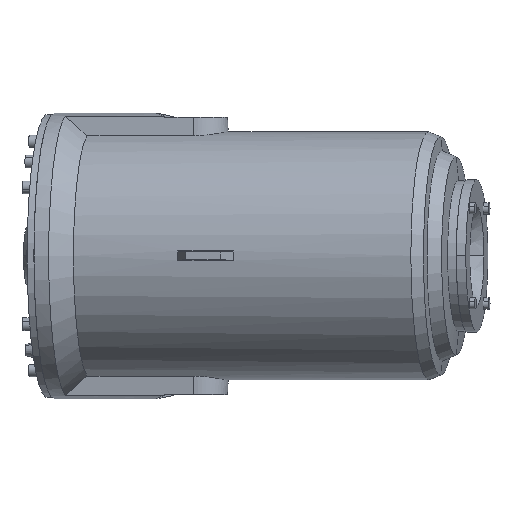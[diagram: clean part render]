
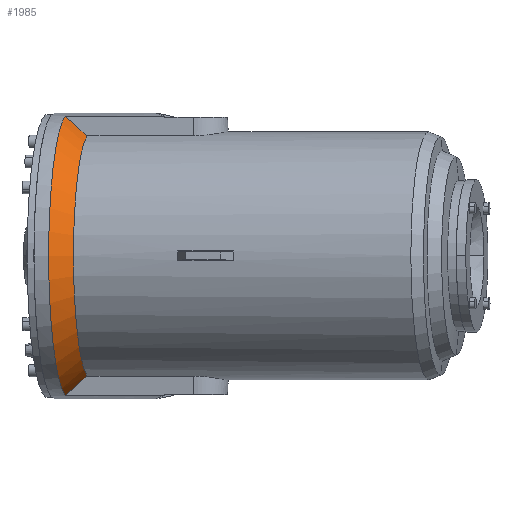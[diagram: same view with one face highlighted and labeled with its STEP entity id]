
A CAD part, top view. The second image highlights one B-rep face of the part: STEP entity #1985.
In plain terms, the highlighted conical face has half-angle 40 degrees and reference radius 206 mm.
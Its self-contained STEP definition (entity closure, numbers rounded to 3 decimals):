
#151 = DIRECTION ( 'NONE',  ( 0., 1., 0. ) ) ;
#152 = CARTESIAN_POINT ( 'NONE',  ( -538.036, -194., 650.441 ) ) ;
#154 = DIRECTION ( 'NONE',  ( 0.99, 0., 0.144 ) ) ;
#169 = DIRECTION ( 'NONE',  ( 0., 1., 0. ) ) ;
#171 = CARTESIAN_POINT ( 'NONE',  ( -506.195, -194., 655.086 ) ) ;
#175 = DIRECTION ( 'NONE',  ( 0.99, 0., 0.144 ) ) ;
#382 = CIRCLE ( 'NONE', #4192, 179. ) ;
#396 = CIRCLE ( 'NONE', #4197, 206. ) ;
#737 = FACE_OUTER_BOUND ( 'NONE', #1277, .T. ) ;
#746 = CONICAL_SURFACE ( 'NONE', #2178, 206., 0.698 ) ;
#1071 = EDGE_CURVE ( 'NONE', #4310, #3929, #382, .T. ) ;
#1079 = EDGE_CURVE ( 'NONE', #4036, #3964, #396, .T. ) ;
#1277 = EDGE_LOOP ( 'NONE', ( #1316, #1317, #1318, #1319 ) ) ;
#1316 = ORIENTED_EDGE ( 'NONE', *, *, #1079, .T. ) ;
#1317 = ORIENTED_EDGE ( 'NONE', *, *, #4103, .T. ) ;
#1318 = ORIENTED_EDGE ( 'NONE', *, *, #1071, .F. ) ;
#1319 = ORIENTED_EDGE ( 'NONE', *, *, #4102, .F. ) ;
#1985 = ADVANCED_FACE ( 'NONE', ( #737 ), #746, .T. ) ;
#2072 = B_SPLINE_CURVE_WITH_KNOTS ( 'NONE', 3,
 ( #2225, #2228, #2237, #2239 ),
 .UNSPECIFIED., .F., .F.,
 ( 4, 4 ),
 ( 1.016, 1.058 ),
 .UNSPECIFIED. ) ;
#2080 = B_SPLINE_CURVE_WITH_KNOTS ( 'NONE', 3,
 ( #2214, #2206, #2230, #2231 ),
 .UNSPECIFIED., .F., .F.,
 ( 4, 4 ),
 ( 0., 0.043 ),
 .UNSPECIFIED. ) ;
#2178 = AXIS2_PLACEMENT_3D ( 'NONE', #3153, #3151, #3149 ) ;
#2206 = CARTESIAN_POINT ( 'NONE',  ( -533.604, -1.754, 694.531 ) ) ;
#2214 = CARTESIAN_POINT ( 'NONE',  ( -544.171, 7.568, 692.496 ) ) ;
#2225 = CARTESIAN_POINT ( 'NONE',  ( -544.171, -395.568, 692.496 ) ) ;
#2228 = CARTESIAN_POINT ( 'NONE',  ( -533.603, -386.245, 694.531 ) ) ;
#2230 = CARTESIAN_POINT ( 'NONE',  ( -523.057, -11.1, 696.565 ) ) ;
#2231 = CARTESIAN_POINT ( 'NONE',  ( -512.543, -20.485, 698.596 ) ) ;
#2237 = CARTESIAN_POINT ( 'NONE',  ( -523.056, -376.899, 696.565 ) ) ;
#2239 = CARTESIAN_POINT ( 'NONE',  ( -512.543, -367.515, 698.596 ) ) ;
#2764 = CARTESIAN_POINT ( 'NONE',  ( -512.543, -20.485, 698.596 ) ) ;
#3149 = DIRECTION ( 'NONE',  ( 0., -1., 0. ) ) ;
#3151 = DIRECTION ( 'NONE',  ( -0.99, 0., -0.144 ) ) ;
#3153 = CARTESIAN_POINT ( 'NONE',  ( -538.036, -194., 650.441 ) ) ;
#3437 = CARTESIAN_POINT ( 'NONE',  ( -512.543, -367.515, 698.596 ) ) ;
#3471 = CARTESIAN_POINT ( 'NONE',  ( -544.171, -395.568, 692.496 ) ) ;
#3540 = CARTESIAN_POINT ( 'NONE',  ( -544.171, 7.568, 692.496 ) ) ;
#3929 = VERTEX_POINT ( 'NONE', #3437 ) ;
#3964 = VERTEX_POINT ( 'NONE', #3471 ) ;
#4036 = VERTEX_POINT ( 'NONE', #3540 ) ;
#4102 = EDGE_CURVE ( 'NONE', #4036, #4310, #2080, .T. ) ;
#4103 = EDGE_CURVE ( 'NONE', #3964, #3929, #2072, .T. ) ;
#4192 = AXIS2_PLACEMENT_3D ( 'NONE', #171, #175, #169 ) ;
#4197 = AXIS2_PLACEMENT_3D ( 'NONE', #152, #154, #151 ) ;
#4310 = VERTEX_POINT ( 'NONE', #2764 ) ;
